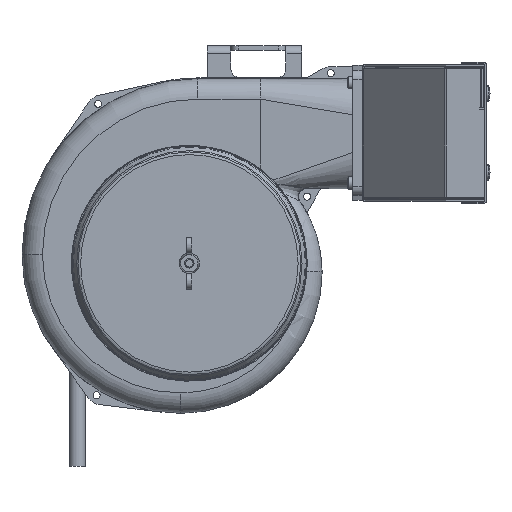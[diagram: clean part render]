
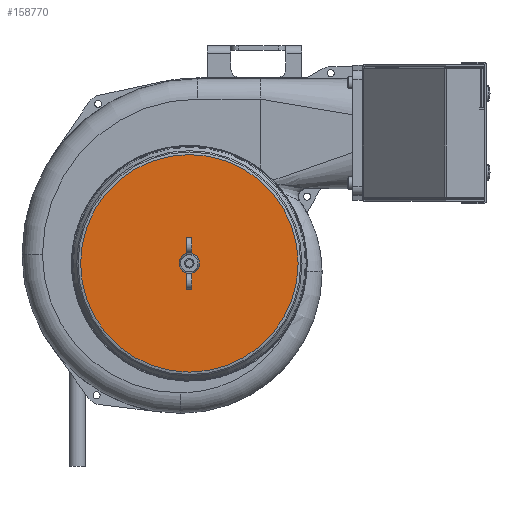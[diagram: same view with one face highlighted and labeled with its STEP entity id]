
A CAD part, left-side view. The second image highlights one B-rep face of the part: STEP entity #158770.
In plain terms, the highlighted planar face has unit normal (-1, 0, 0).
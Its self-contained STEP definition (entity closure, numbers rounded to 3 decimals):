
#158770=ADVANCED_FACE('', (#158780,#158790), #158800, .T.);
#412420=AXIS2_PLACEMENT_3D('Ax2Pl3d', #412430, #412440, #412450);
#412460=AXIS2_PLACEMENT_3D('Ax2Pl3d', #412470, #412480, #412490);
#412500=AXIS2_PLACEMENT_3D('Ax2Pl3d', #412510, #412520, #412530);
#412430=CARTESIAN_POINT('HicPkt', (-283.76,-0.008,171.75));
#1043750=CARTESIAN_POINT('', (-283.76,69.225,171.75));
#412470=CARTESIAN_POINT('HicPkt', (-283.76,69.225,171.75));
#412510=CARTESIAN_POINT('HicPkt', (-283.76,-0.008,171.75));
#1043760=CARTESIAN_POINT('', (-283.76,6.472,171.75));
#1059170=CIRCLE('Circle', #412420, 69.232);
#1059180=CIRCLE('Circle', #412500, 6.48);
#412440=DIRECTION('Axis', (1.,0.,0.));
#412450=DIRECTION('RefDirection', (0.,-0.,-1.));
#412480=DIRECTION('Axis', (-1.,0.,
0.));
#412490=DIRECTION('RefDirection', (0.,
0.,-1.));
#412520=DIRECTION('Axis', (-1.,0.,
0.));
#412530=DIRECTION('RefDirection', (0.,
0.,-1.));
#1892210=EDGE_CURVE('', #1892220, #1892220, #1059170, .T.);
#1892230=EDGE_CURVE('', #1892240, #1892240, #1059180, .T.);
#2205760=EDGE_LOOP('Edge_loop', (#2205770));
#2205780=EDGE_LOOP('Edge_loop', (#2205790));
#158790=FACE_BOUND('', #2205780, .T.);
#158780=FACE_OUTER_BOUND('Face_outer_bound', #2205760, .T.);
#2205770=ORIENTED_EDGE('', *, *, #1892210, .F.);
#2205790=ORIENTED_EDGE('', *, *, #1892230, .F.);
#158800=PLANE('Plane', #412460);
#1892220=VERTEX_POINT('', #1043750);
#1892240=VERTEX_POINT('', #1043760);
